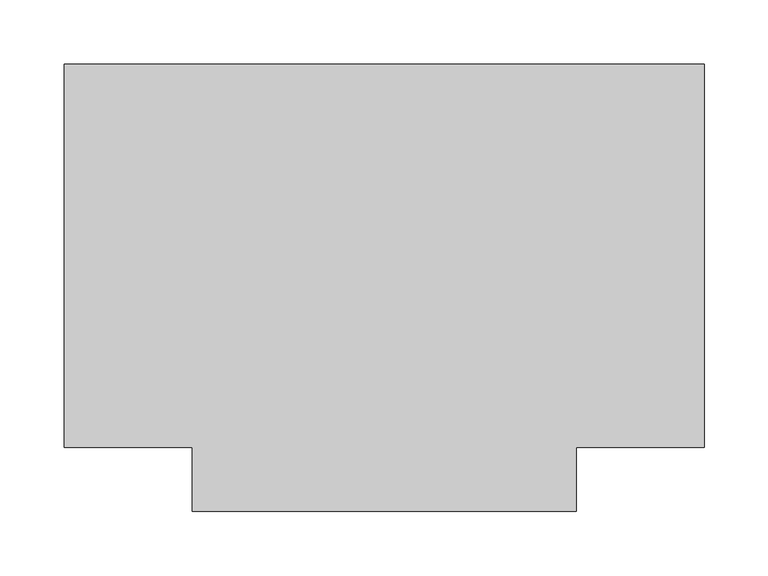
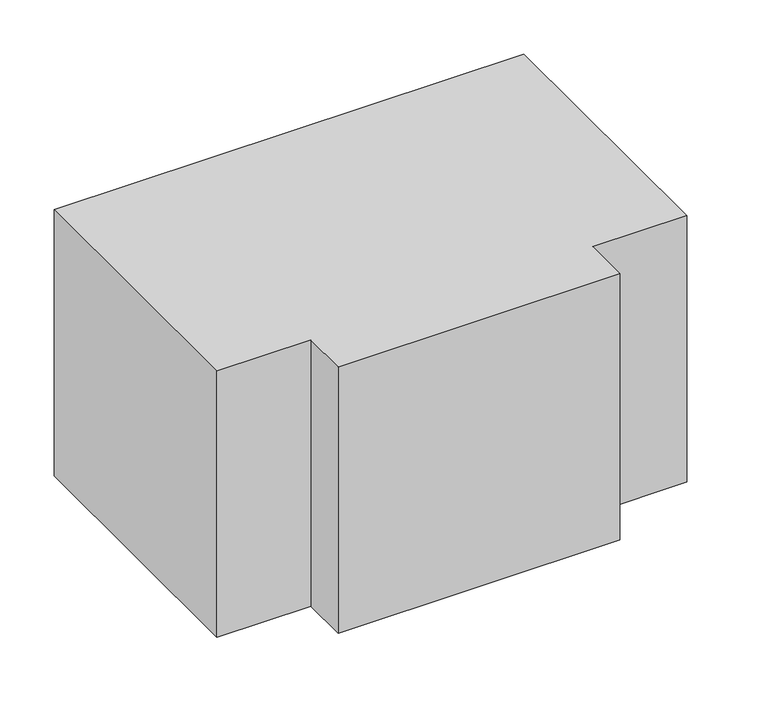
"""IFC4 building model written with IfcOpenShell, lengths in millimetres: duct fitting geometry, BL_ТройникВоздуховодов_Прямоугольный-90 : BL_ТройникВоздуховодов_Прямоугольный-90."""

import ifcopenshell
import ifcopenshell.guid

model = None  # the IFC model being written
_history = None  # IfcOwnerHistory: only IFC2X3 demands one
_inside = {}  # id of a spatial element -> (the spatial element, [elements in it])
_under = {}  # id of a project, library or spatial element -> (it, [spatial elements below it])
_declared = {}  # id of a project -> (the project, [libraries it declares])
_typed = {}  # id of a type object -> (the type object, [elements of that type])
_made_of = {}  # id of a material, layer set ... -> (it, [elements and type objects made of it])


def new_model(schema):
    """Start an empty IFC model of exactly this schema.

    Asked for "IFC4X3", IfcOpenShell would pick the latest addendum, in which some entities
    have other attributes; the version numbers below select the first issue.
    IFC2X3 requires an IfcOwnerHistory on every rooted entity: one is made here for all.
    """
    global model, _history
    if schema == "IFC4X3":
        model = ifcopenshell.file(schema_version=(4, 3, 0, 0))
    else:
        model = ifcopenshell.file(schema=schema)
    _inside.clear()
    _under.clear()
    _declared.clear()
    _typed.clear()
    _made_of.clear()
    _history = None
    if model.schema == "IFC2X3":
        org = make("IfcOrganization", Name="unknown")
        user = make(
            "IfcPersonAndOrganization",
            ThePerson=make("IfcPerson", FamilyName="unknown"),
            TheOrganization=org,
        )
        app = make(
            "IfcApplication",
            ApplicationDeveloper=org,
            Version="unknown",
            ApplicationFullName="unknown",
            ApplicationIdentifier="unknown",
        )
        _history = make(
            "IfcOwnerHistory",
            OwningUser=user,
            OwningApplication=app,
            ChangeAction="ADDED",
            CreationDate=0,
        )
    return model


def make(cls, **values):
    """One entity of the class cls with the attributes given. An attribute that is None is left unset."""
    return model.create_entity(
        cls, **{name: value for name, value in values.items() if value is not None}
    )


def rooted(cls, **values):
    """An entity with a GlobalId (a new one), such as an element, a storey or a relation."""
    return make(cls, GlobalId=ifcopenshell.guid.new(), OwnerHistory=_history, **values)


def si_unit(unit_type, name, prefix=None):
    """IfcSIUnit, for example si_unit("LENGTHUNIT", "METRE", prefix="MILLI")."""
    return make("IfcSIUnit", UnitType=unit_type, Prefix=prefix, Name=name)


def assignment(units):
    """IfcUnitAssignment: the units of a project."""
    return None if units is None else make("IfcUnitAssignment", Units=units)


def point(xyz):
    """IfcCartesianPoint."""
    return None if xyz is None else make("IfcCartesianPoint", Coordinates=xyz)


def direction(xyz):
    """IfcDirection."""
    return None if xyz is None else make("IfcDirection", DirectionRatios=xyz)


def frame(location, z_axis=None, x_axis=None):
    """IfcAxis2Placement3D, a coordinate frame: its origin and axes. An axis left out is left unset."""
    return make(
        "IfcAxis2Placement3D",
        Location=point(location),
        Axis=direction(z_axis),
        RefDirection=direction(x_axis),
    )


def origin():
    """The frame at (0, 0, 0) with its axes left unset."""
    return frame((0.0, 0.0, 0.0))


def place(relative_to, where):
    """IfcLocalPlacement: puts the frame where relative to a parent placement (None: the world)."""
    return make(
        "IfcLocalPlacement", PlacementRelTo=relative_to, RelativePlacement=where
    )


def context(
    kind, dimensions, precision=None, world=None, true_north=None, identifier=None
):
    """IfcGeometricRepresentationContext, for example the 3D "Model" context."""
    return make(
        "IfcGeometricRepresentationContext",
        ContextIdentifier=identifier,
        ContextType=kind,
        CoordinateSpaceDimension=dimensions,
        Precision=precision,
        WorldCoordinateSystem=world,
        TrueNorth=true_north,
    )


def project(units=None, contexts=None):
    """IfcProject with its units and contexts."""
    return rooted(
        "IfcProject",
        Name="project",
        RepresentationContexts=contexts,
        UnitsInContext=assignment(units),
    )


def spatial(cls, under=None, at=None, **own):
    """A site, building, storey or space (cls), placed at a placement, below another one or the project."""
    s = rooted(cls, ObjectPlacement=at, **own)
    if under is not None:
        _under.setdefault(under.id(), (under, []))[1].append(s)
    return s


def polyline(points):
    """IfcPolyline through the points."""
    return make("IfcPolyline", Points=[point(p) for p in points])


def outline(outer, holes=None, kind="AREA"):
    """IfcArbitraryClosedProfileDef: a profile drawn as a closed curve; with holes, ...WithVoids."""
    if holes is None:
        return make("IfcArbitraryClosedProfileDef", ProfileType=kind, OuterCurve=outer)
    return make(
        "IfcArbitraryProfileDefWithVoids",
        ProfileType=kind,
        OuterCurve=outer,
        InnerCurves=holes,
    )


def extrude(swept, where, along, depth):
    """IfcExtrudedAreaSolid: the profile swept, set in the frame where, extruded along a direction by depth."""
    return make(
        "IfcExtrudedAreaSolid",
        SweptArea=swept,
        Position=where,
        ExtrudedDirection=direction(along),
        Depth=depth,
    )


def shape(context_of_items, identifier, shape_type, items):
    """IfcShapeRepresentation: the items that make up one representation, for example the "Body"."""
    return make(
        "IfcShapeRepresentation",
        ContextOfItems=context_of_items,
        RepresentationIdentifier=identifier,
        RepresentationType=shape_type,
        Items=items,
    )


def source(mapping_origin, context_of_items, identifier, shape_type, items):
    """IfcRepresentationMap: a shape defined once, which mapped items show again and again."""
    return make(
        "IfcRepresentationMap",
        MappingOrigin=mapping_origin,
        MappedRepresentation=shape(context_of_items, identifier, shape_type, items),
    )


def transform(
    local_origin,
    x_axis=None,
    y_axis=None,
    z_axis=None,
    scale=None,
    scale2=None,
    scale3=None,
    uniform=True,
):
    """IfcCartesianTransformationOperator3D, or its non-uniform kind. x_axis, y_axis, z_axis: its Axis1, 2, 3."""
    if uniform:
        return make(
            "IfcCartesianTransformationOperator3D",
            Axis1=direction(x_axis),
            Axis2=direction(y_axis),
            LocalOrigin=point(local_origin),
            Scale=scale,
            Axis3=direction(z_axis),
        )
    return make(
        "IfcCartesianTransformationOperator3DnonUniform",
        Axis1=direction(x_axis),
        Axis2=direction(y_axis),
        LocalOrigin=point(local_origin),
        Scale=scale,
        Axis3=direction(z_axis),
        Scale2=scale2,
        Scale3=scale3,
    )


def mapped(mapping_source, mapping_target):
    """IfcMappedItem: shows the shape of a source again, moved by a transform."""
    return make(
        "IfcMappedItem", MappingSource=mapping_source, MappingTarget=mapping_target
    )


def made_of(thing, what):
    """Note that an element or type object is made of a material, layer set ...; save() writes the relation."""
    if what is not None:
        _made_of.setdefault(what.id(), (what, []))[1].append(thing)
    return thing


def element(
    cls,
    number,
    at=None,
    inside=None,
    cuts=None,
    type_object=None,
    material=None,
    context=None,
    identifier="Body",
    shape_type=None,
    held_by="IfcProductDefinitionShape",
    body=None,
    shapes=None,
    **own,
):
    """One element of the class cls, such as IfcWall. Its Tag is "e" and its number.

    at: its placement. inside: the storey or other place that contains it. cuts: it is an
    opening in that element (IfcRelVoidsElement). A single representation is given by context,
    identifier, shape_type and body (its items); several are given by shapes. held_by: the class
    of the entity that holds the representations. save() writes the other relations.
    """
    e = rooted(cls, Tag="e%d" % number, ObjectPlacement=at, **own)
    if body is not None:
        shapes = [shape(context, identifier, shape_type, body)]
    if shapes is not None:
        e.Representation = make(held_by, Representations=shapes)
    if inside is not None:
        _inside.setdefault(inside.id(), (inside, []))[1].append(e)
    if cuts is not None:
        rooted(
            "IfcRelVoidsElement", RelatingBuildingElement=cuts, RelatedOpeningElement=e
        )
    if type_object is not None:
        _typed.setdefault(type_object.id(), (type_object, []))[1].append(e)
    return made_of(e, material)


def aggregate(whole, parts):
    """IfcRelAggregates: a whole, such as a stair, and the parts it consists of."""
    return rooted("IfcRelAggregates", RelatingObject=whole, RelatedObjects=parts)


def save(model, path):
    """Write the relations noted so far, then the file.

    IfcRelAggregates (storeys below a building ...), IfcRelContainedInSpatialStructure (elements
    in a storey), IfcRelDefinesByType, IfcRelAssociatesMaterial and IfcRelDeclares: one each for
    every whole, place, type object, material and project.
    """
    for whole, parts in _under.values():
        aggregate(whole, parts)
    for where, things in _inside.values():
        rooted(
            "IfcRelContainedInSpatialStructure",
            RelatedElements=things,
            RelatingStructure=where,
        )
    for kind, things in _typed.values():
        rooted("IfcRelDefinesByType", RelatedObjects=things, RelatingType=kind)
    for what, things in _made_of.values():
        rooted("IfcRelAssociatesMaterial", RelatedObjects=things, RelatingMaterial=what)
    for by, libraries in _declared.values():
        rooted("IfcRelDeclares", RelatingContext=by, RelatedDefinitions=libraries)
    model.write(path)


def duct_fitting_4d285b53(model_context):
    return source(origin(), model_context, "Body", "SweptSolid", [
        extrude(outline(polyline([(-250.0, -150.0), (-250.0, 150.0), (250.0, 150.0), (250.0, -150.0), (150.0, -150.0), (150.0, -200.0), (-150.0, -200.0), (-150.0, -150.0), (-250.0, -150.0)])), frame((0.0, 0.0, -150.0), z_axis=(0.0, 0.0, 1.0), x_axis=(1.0, 0.0, 0.0)), (0.0, 0.0, 1.0), 300.0),
    ])


if __name__ == "__main__":
    model = new_model("IFC4")
    model_context = context("Model", 3, world=origin())
    ifc_project = project(units=[si_unit("LENGTHUNIT", "METRE", prefix="MILLI")], contexts=[model_context])
    site = spatial("IfcSite", under=ifc_project)
    building = spatial("IfcBuilding", under=site)
    placement = place(None, origin())
    duct_fitting_shape = duct_fitting_4d285b53(model_context)
    element("IfcDuctFitting", 1, ObjectType="BL_ТройникВоздуховодов_Прямоугольный-90 : BL_ТройникВоздуховодов_Прямоугольный-90", at=placement, inside=building, context=model_context, shape_type="MappedRepresentation", body=[
        mapped(duct_fitting_shape, transform((0.0, 0.0, 0.0), x_axis=(1.0, 0.0, 0.0), y_axis=(0.0, 1.0, 0.0), z_axis=(0.0, 0.0, 1.0))),
    ])
    save(model, "model.ifc")
